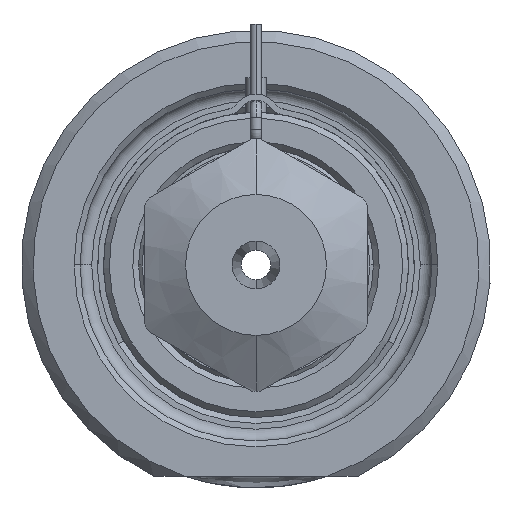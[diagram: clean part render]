
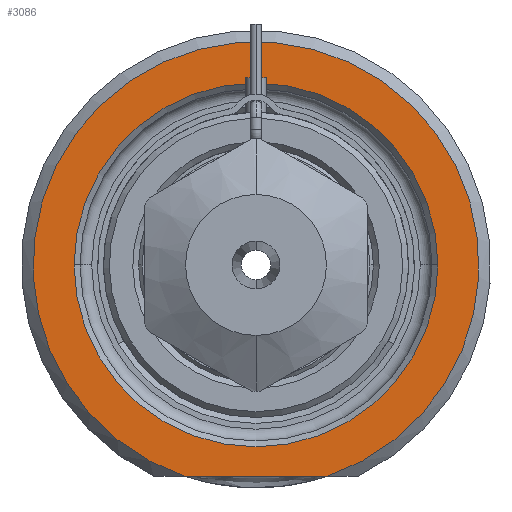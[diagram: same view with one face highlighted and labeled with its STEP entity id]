
A CAD part, front view. The second image highlights one B-rep face of the part: STEP entity #3086.
In plain terms, the highlighted planar face has unit normal (0, -1, 0).
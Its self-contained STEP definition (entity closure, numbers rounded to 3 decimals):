
#1=DIRECTION('',(1.,0.,0.));
#2=VECTOR('',#1,12.166);
#3=CARTESIAN_POINT('',(-6.083,0.,-18.));
#4=LINE('',#3,#2);
#5=CARTESIAN_POINT('',(0.,0.,0.));
#6=DIRECTION('',(0.,1.,0.));
#7=DIRECTION('',(-1.,0.,0.));
#8=AXIS2_PLACEMENT_3D('',#5,#6,#7);
#10=CARTESIAN_POINT('',(0.,0.,0.));
#11=DIRECTION('',(0.,1.,0.));
#12=DIRECTION('',(1.,0.,0.));
#13=AXIS2_PLACEMENT_3D('',#10,#11,#12);
#264=CARTESIAN_POINT('',(0.,0.,0.));
#265=DIRECTION('',(0.,-1.,0.));
#266=DIRECTION('',(0.32,0.,-0.947));
#267=AXIS2_PLACEMENT_3D('',#264,#265,#266);
#2589=CARTESIAN_POINT('',(-15.5,0.,0.));
#2590=CARTESIAN_POINT('',(15.5,0.,0.));
#2591=VERTEX_POINT('',#2589);
#2592=VERTEX_POINT('',#2590);
#2647=CARTESIAN_POINT('',(-6.083,0.,-18.));
#2648=CARTESIAN_POINT('',(6.083,0.,-18.));
#2649=VERTEX_POINT('',#2647);
#2650=VERTEX_POINT('',#2648);
#3069=CARTESIAN_POINT('',(0.,0.,0.));
#3070=DIRECTION('',(0.,-1.,0.));
#3071=DIRECTION('',(1.,0.,0.));
#3072=AXIS2_PLACEMENT_3D('',#3069,#3070,#3071);
#3073=PLANE('',#3072);
#3075=ORIENTED_EDGE('',*,*,#3074,.F.);
#3077=ORIENTED_EDGE('',*,*,#3076,.F.);
#3078=EDGE_LOOP('',(#3075,#3077));
#3079=FACE_OUTER_BOUND('',#3078,.F.);
#3081=ORIENTED_EDGE('',*,*,#3080,.F.);
#3083=ORIENTED_EDGE('',*,*,#3082,.F.);
#3084=EDGE_LOOP('',(#3081,#3083));
#3085=FACE_BOUND('',#3084,.F.);
#3086=ADVANCED_FACE('',(#3079,#3085),#3073,.T.);
#9=CIRCLE('',#8,15.5);
#14=CIRCLE('',#13,15.5);
#268=CIRCLE('',#267,19.);
#3074=EDGE_CURVE('',#2649,#2650,#4,.T.);
#3076=EDGE_CURVE('',#2650,#2649,#268,.T.);
#3080=EDGE_CURVE('',#2591,#2592,#9,.T.);
#3082=EDGE_CURVE('',#2592,#2591,#14,.T.);
